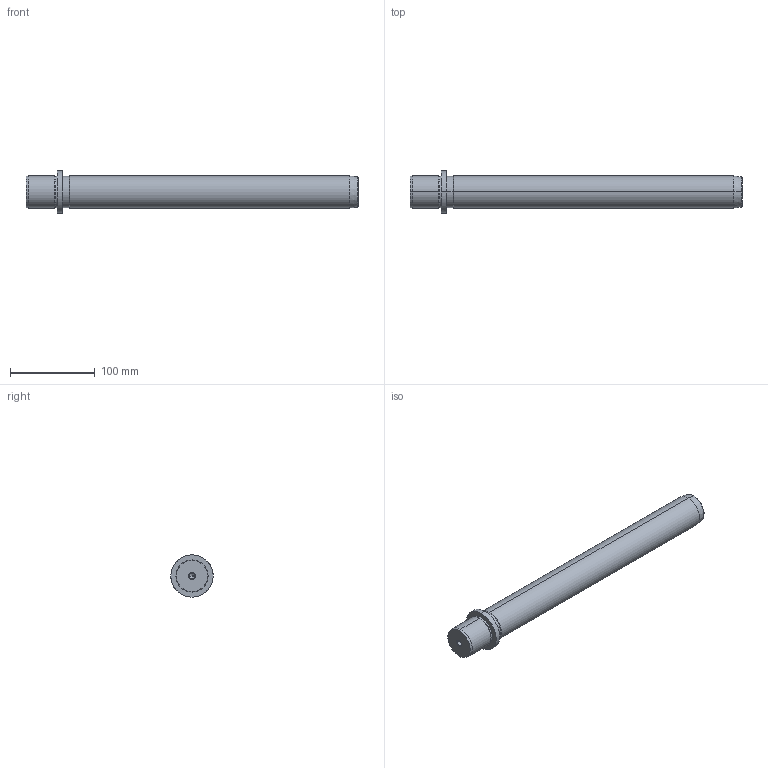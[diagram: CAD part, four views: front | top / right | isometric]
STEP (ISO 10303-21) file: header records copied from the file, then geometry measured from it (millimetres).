
FILE_DESCRIPTION(('CATIA V5 STEP Exchange'),'2;1');
FILE_NAME('C:\Users\Utente\Desktop\IO LAVORO\3D X SITO CF\X SITO\718\718-38x355.stp','2021-01-02T12:50:18+00:00',('none'),('none'),'CATIA Version 5 Release 20 GA (IN-10)','CATIA V5 STEP AP203','none');
FILE_SCHEMA(('CONFIG_CONTROL_DESIGN'));
Length unit declared in the file: millimetre
Products named in the file (1): 718-38x355
Bounding box: 392 x 50 x 50 mm (x, y, z)
Volume: 446368.4 mm3; surface area: 51804.9 mm2
Topology: 1 solids, 1 shells, 36 faces, 100 edges, 66 vertices
Faces by surface type: cone 16, cylinder 14, plane 4, torus 2
Entity records: 1291 total; most frequent: CARTESIAN_POINT 362, ORIENTED_EDGE 192, DIRECTION 157, EDGE_CURVE 96, AXIS2_PLACEMENT_3D 92, VERTEX_POINT 66, CIRCLE 55, EDGE_LOOP 40
